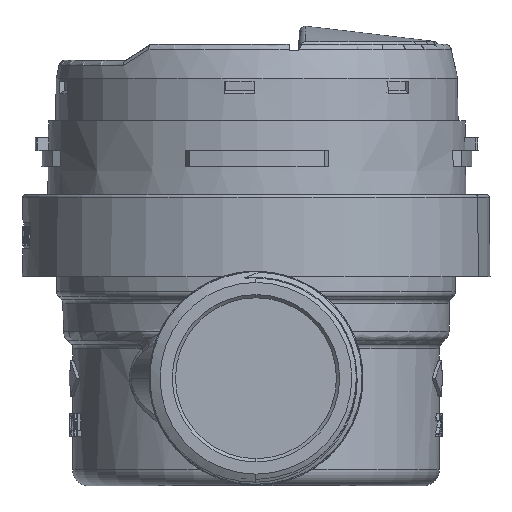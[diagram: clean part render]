
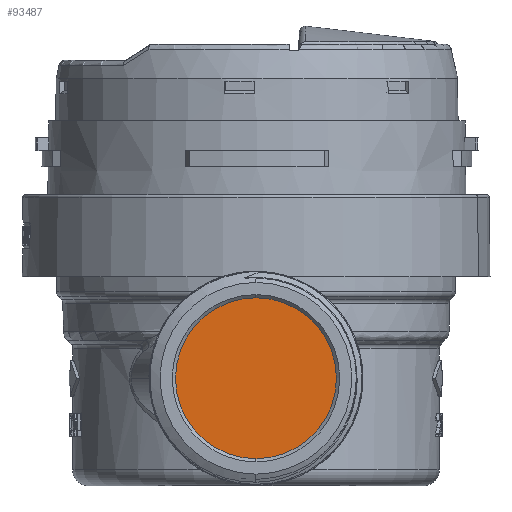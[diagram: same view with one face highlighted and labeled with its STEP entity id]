
A CAD part, left-side view. The second image highlights one B-rep face of the part: STEP entity #93487.
In plain terms, the highlighted planar face has unit normal (-1, 0, 0).
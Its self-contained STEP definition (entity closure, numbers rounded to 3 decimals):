
#1688 = DIRECTION ( 'NONE',  ( -1., 0., 0. ) ) ;
#15736 = EDGE_CURVE ( 'NONE', #71051, #23376, #117734, .T. ) ;
#16109 = CIRCLE ( 'NONE', #22322, 12.5 ) ;
#17900 = ORIENTED_EDGE ( 'NONE', *, *, #15736, .T. ) ;
#21799 = DIRECTION ( 'NONE',  ( 1., 0., 0. ) ) ;
#22322 = AXIS2_PLACEMENT_3D ( 'NONE', #24631, #44339, #92224 ) ;
#23054 = CARTESIAN_POINT ( 'NONE',  ( -58.5, 0., 0. ) ) ;
#23376 = VERTEX_POINT ( 'NONE', #90985 ) ;
#24631 = CARTESIAN_POINT ( 'NONE',  ( -58.5, 0., 0. ) ) ;
#32275 = DIRECTION ( 'NONE',  ( 0., 0., 1. ) ) ;
#35273 = CARTESIAN_POINT ( 'NONE',  ( -58.5, 0., 12.5 ) ) ;
#40896 = FACE_OUTER_BOUND ( 'NONE', #72513, .T. ) ;
#44339 = DIRECTION ( 'NONE',  ( -1., 0., 0. ) ) ;
#62778 = AXIS2_PLACEMENT_3D ( 'NONE', #80096, #1688, #32275 ) ;
#71051 = VERTEX_POINT ( 'NONE', #35273 ) ;
#71253 = EDGE_CURVE ( 'NONE', #23376, #71051, #16109, .T. ) ;
#72513 = EDGE_LOOP ( 'NONE', ( #17900, #118826 ) ) ;
#80096 = CARTESIAN_POINT ( 'NONE',  ( -58.5, 0., 0. ) ) ;
#90985 = CARTESIAN_POINT ( 'NONE',  ( -58.5, 0., -12.5 ) ) ;
#92224 = DIRECTION ( 'NONE',  ( 0., 0., 1. ) ) ;
#93487 = ADVANCED_FACE ( 'NONE', ( #40896 ), #119923, .F. ) ;
#100826 = DIRECTION ( 'NONE',  ( 0., 1., 0. ) ) ;
#106658 = AXIS2_PLACEMENT_3D ( 'NONE', #23054, #21799, #100826 ) ;
#117734 = CIRCLE ( 'NONE', #62778, 12.5 ) ;
#118826 = ORIENTED_EDGE ( 'NONE', *, *, #71253, .T. ) ;
#119923 = PLANE ( 'NONE',  #106658 ) ;
